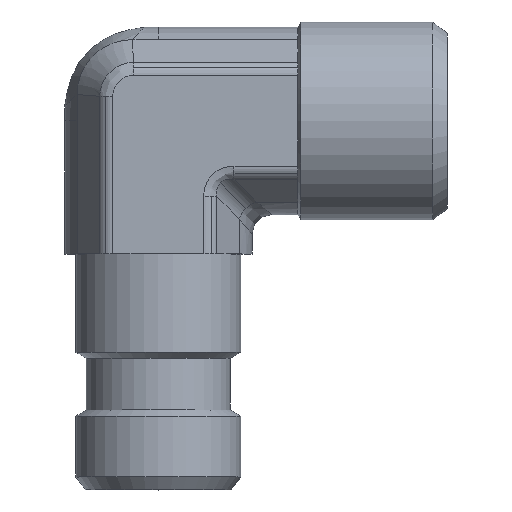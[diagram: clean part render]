
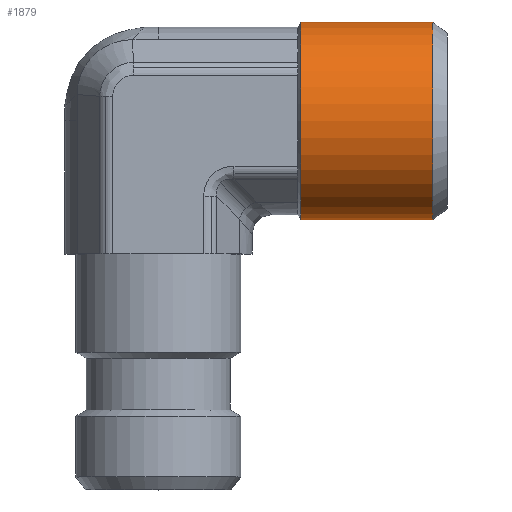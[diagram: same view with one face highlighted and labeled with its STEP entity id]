
A CAD part, top view. The second image highlights one B-rep face of the part: STEP entity #1879.
In plain terms, the highlighted cylindrical face has radius 9.925 mm (diameter 19.85 mm), a partial arc.
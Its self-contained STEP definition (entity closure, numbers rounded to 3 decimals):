
#812=CARTESIAN_POINT('',(5.425,0.,27.507));
#813=VERTEX_POINT('',#812);
#829=CARTESIAN_POINT('',(-14.425,0.,27.507));
#830=VERTEX_POINT('',#829);
#837=CARTESIAN_POINT('',(-4.5,0.,27.507));
#838=DIRECTION('',(0.0,0.0,1.0));
#839=DIRECTION('',(1.0,0.0,0.0));
#840=AXIS2_PLACEMENT_3D('',#837,#838,#839);
#841=CIRCLE('',#840,9.925);
#842=EDGE_CURVE('',#830,#813,#841,.T.);
#852=CARTESIAN_POINT('',(5.425,0.,14.303));
#853=VERTEX_POINT('',#852);
#886=CARTESIAN_POINT('',(-14.425,0.,14.303));
#887=VERTEX_POINT('',#886);
#1238=CARTESIAN_POINT('',(5.425,0.,14.303));
#1239=DIRECTION('',(0.0,0.0,1.0));
#1240=VECTOR('',#1239,13.204);
#1241=LINE('',#1238,#1240);
#1242=EDGE_CURVE('',#853,#813,#1241,.T.);
#1245=CARTESIAN_POINT('',(-14.425,0.,27.507));
#1246=DIRECTION('',(0.0,0.0,-1.0));
#1247=VECTOR('',#1246,13.204);
#1248=LINE('',#1245,#1247);
#1249=EDGE_CURVE('',#830,#887,#1248,.T.);
#1862=CARTESIAN_POINT('',(-4.5,0.,30.5));
#1863=DIRECTION('',(0.,0.,-1.0));
#1864=DIRECTION('',(1.0,0.0,0.0));
#1865=AXIS2_PLACEMENT_3D('',#1862,#1863,#1864);
#1866=CYLINDRICAL_SURFACE('',#1865,9.925);
#1867=ORIENTED_EDGE('',*,*,#1242,.T.);
#1868=ORIENTED_EDGE('',*,*,#842,.F.);
#1869=ORIENTED_EDGE('',*,*,#1249,.T.);
#1870=CARTESIAN_POINT('',(-4.5,0.,14.303));
#1871=DIRECTION('',(0.0,0.0,-1.0));
#1872=DIRECTION('',(-1.0,0.0,0.0));
#1873=AXIS2_PLACEMENT_3D('',#1870,#1871,#1872);
#1874=CIRCLE('',#1873,9.925);
#1875=EDGE_CURVE('',#853,#887,#1874,.T.);
#1876=ORIENTED_EDGE('',*,*,#1875,.F.);
#1877=EDGE_LOOP('',(#1867,#1868,#1869,#1876));
#1878=FACE_OUTER_BOUND('',#1877,.T.);
#1879=ADVANCED_FACE('',(#1878),#1866,.T.);
